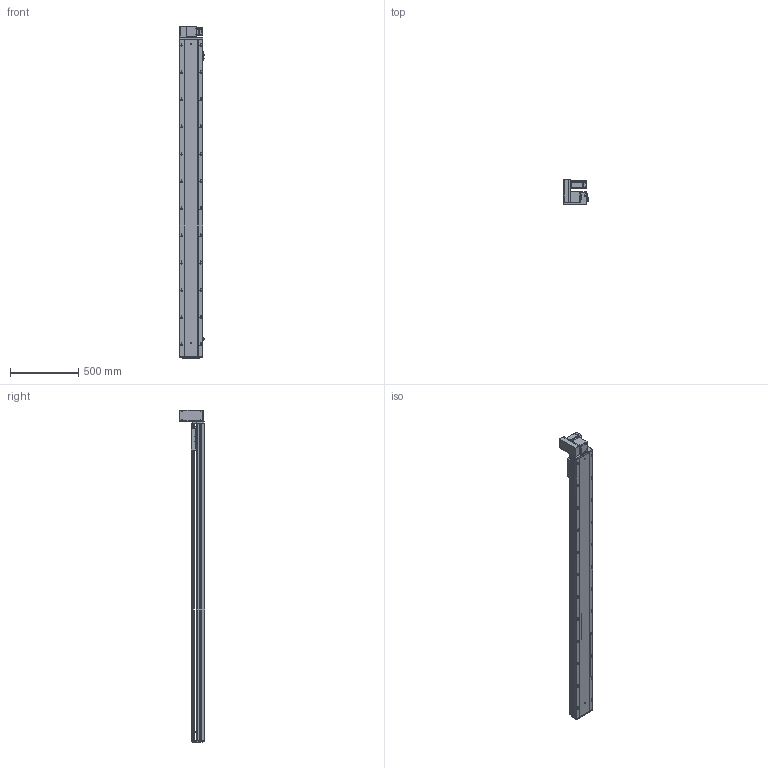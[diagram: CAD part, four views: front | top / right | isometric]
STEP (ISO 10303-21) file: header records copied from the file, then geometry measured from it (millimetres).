
FILE_DESCRIPTION (( 'STEP AP203' ), '1' );
FILE_NAME ('RY170-T-300-UL-P400W.SLDASM_2050.step', '2021-03-02T02:14:26', ( '盈信电脑' ), ( '东莞市道滘镇水果街19号' ), 'SwSTEP 2.0', 'SolidWorks 2012', '' );
FILE_SCHEMA (( 'CONFIG_CONTROL_DESIGN' ));
Products named in the file (18): RY170-T-300-UL-P400W.SLDASM_2050; 15; RY120-T主同步轮轴承压盖; RY170同步轮电机安装板(400W); RY170-T蹟翐M4; RY170肮祭謫萇儂欶; 滅袉蝶18-10; RY170-T肮祭謫裔啣; RY170-T肮祭湍揤踡輸2; RY170-T肮祭湍揤踡輸1; RY170外置感应片(200共用）; RY170肮祭謫ヶ裔啣; RY170翋肮祭謫釱; RY170-T-300肮祭謫倰第裔啣-DL_2050; 覜茼ん672; RY170綴裔啣; RY170肮祭湍臏賑輸; RY170-T-300肮祭謫倰第菁釱-DL_2050
Assembly tree (20 placements, depth 2):
  RY170-T-300-UL-P400W.SLDASM_2050
    RY170-T-300肮祭謫倰第菁釱-DL_2050
    RY170肮祭湍臏賑輸
    RY170-T-300肮祭謫倰第裔啣-DL_2050
    RY170綴裔啣
    覜茼ん672  x3
    RY170外置感应片(200共用）
    RY170肮祭謫ヶ裔啣
    RY170翋肮祭謫釱
    RY170-T肮祭湍揤踡輸1
    RY170-T肮祭湍揤踡輸2
    RY170-T肮祭謫裔啣
    滅袉蝶18-10  x2
    RY120-T主同步轮轴承压盖
    RY170肮祭謫萇儂欶
    RY170同步轮电机安装板(400W)
    RY170-T蹟翐M4
    15
Bounding box: 183.7 x 184 x 2438 mm (x, y, z)
Volume: 11256821.8 mm3; surface area: 3872334.5 mm2
Topology: 20 solids, 20 shells, 2841 faces, 8006 edges, 5089 vertices
Faces by surface type: cylinder 1348, plane 1155, cone 308, bspline 30
Entity records: 91944 total; most frequent: CARTESIAN_POINT 21377, ORIENTED_EDGE 14512, DIRECTION 14124, EDGE_CURVE 7256, AXIS2_PLACEMENT_3D 5018, VERTEX_POINT 4757, VECTOR 4088, LINE 4088
